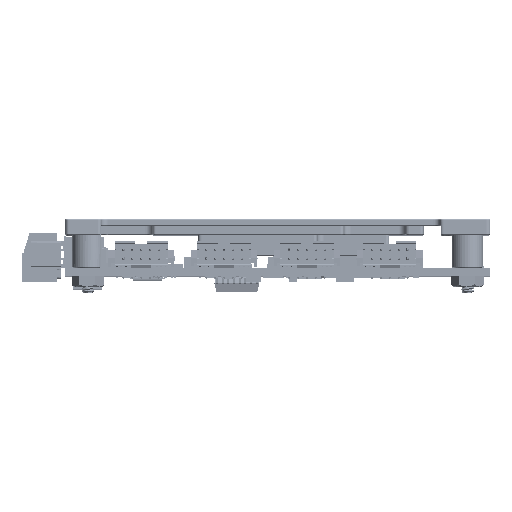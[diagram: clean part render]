
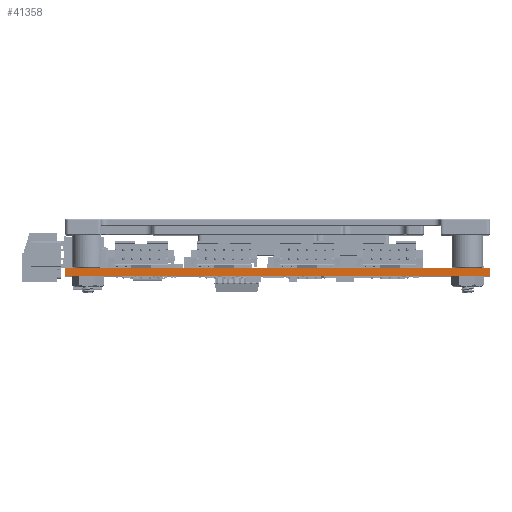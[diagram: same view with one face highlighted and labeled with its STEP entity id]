
A CAD part, top view. The second image highlights one B-rep face of the part: STEP entity #41358.
In plain terms, the highlighted planar face has unit normal (0, 0, 1) as drawn and (-1, 0, 0) by its records, which use the part's own axes.
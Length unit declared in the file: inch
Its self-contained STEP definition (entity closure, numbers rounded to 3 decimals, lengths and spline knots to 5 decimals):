
#20985 = LINE ( 'NONE', #445330, #230171 ) ;
#21294 = VECTOR ( 'NONE', #77651, 39.37008 ) ;
#30604 = DIRECTION ( 'NONE',  ( 1., 0., 0. ) ) ;
#41358 = ADVANCED_FACE ( 'NONE', ( #55694 ), #343615, .F. ) ;
#54736 = CARTESIAN_POINT ( 'NONE',  ( 0., 0., 0. ) ) ;
#55694 = FACE_OUTER_BOUND ( 'NONE', #226763, .T. ) ;
#56785 = VECTOR ( 'NONE', #370465, 39.37008 ) ;
#67282 = EDGE_CURVE ( 'NONE', #412562, #121584, #370643, .T. ) ;
#77651 = DIRECTION ( 'NONE',  ( 0., 0., 1. ) ) ;
#78947 = VERTEX_POINT ( 'NONE', #116184 ) ;
#98734 = VERTEX_POINT ( 'NONE', #317857 ) ;
#100933 = ORIENTED_EDGE ( 'NONE', *, *, #67282, .T. ) ;
#116184 = CARTESIAN_POINT ( 'NONE',  ( 0., 0., -0.0742 ) ) ;
#121584 = VERTEX_POINT ( 'NONE', #501630 ) ;
#195520 = EDGE_CURVE ( 'NONE', #121584, #98734, #20985, .T. ) ;
#226763 = EDGE_LOOP ( 'NONE', ( #273843, #100933, #378719, #488218 ) ) ;
#230171 = VECTOR ( 'NONE', #251103, 39.37008 ) ;
#251103 = DIRECTION ( 'NONE',  ( 0., 0., -1. ) ) ;
#266178 = CARTESIAN_POINT ( 'NONE',  ( 0., 3.775, -0.0742 ) ) ;
#273843 = ORIENTED_EDGE ( 'NONE', *, *, #430905, .T. ) ;
#305819 = DIRECTION ( 'NONE',  ( 0., 0., -1. ) ) ;
#313297 = CARTESIAN_POINT ( 'NONE',  ( 0., 0., -0.0742 ) ) ;
#317857 = CARTESIAN_POINT ( 'NONE',  ( 0., 3.775, -0.0742 ) ) ;
#322498 = DIRECTION ( 'NONE',  ( 0., 1., 0. ) ) ;
#324150 = CARTESIAN_POINT ( 'NONE',  ( 0., 0., -0.0742 ) ) ;
#327550 = CARTESIAN_POINT ( 'NONE',  ( 0., 3.775, 0. ) ) ;
#335135 = LINE ( 'NONE', #313297, #21294 ) ;
#343615 = PLANE ( 'NONE',  #361119 ) ;
#361119 = AXIS2_PLACEMENT_3D ( 'NONE', #266178, #30604, #305819 ) ;
#370465 = DIRECTION ( 'NONE',  ( 0., 1., 0. ) ) ;
#370643 = LINE ( 'NONE', #327550, #56785 ) ;
#375512 = VECTOR ( 'NONE', #322498, 39.37008 ) ;
#378719 = ORIENTED_EDGE ( 'NONE', *, *, #195520, .T. ) ;
#412562 = VERTEX_POINT ( 'NONE', #54736 ) ;
#430905 = EDGE_CURVE ( 'NONE', #78947, #412562, #335135, .T. ) ;
#445330 = CARTESIAN_POINT ( 'NONE',  ( 0., 3.775, -0.0742 ) ) ;
#478528 = EDGE_CURVE ( 'NONE', #78947, #98734, #480038, .T. ) ;
#480038 = LINE ( 'NONE', #324150, #375512 ) ;
#488218 = ORIENTED_EDGE ( 'NONE', *, *, #478528, .F. ) ;
#501630 = CARTESIAN_POINT ( 'NONE',  ( 0., 3.775, 0. ) ) ;
